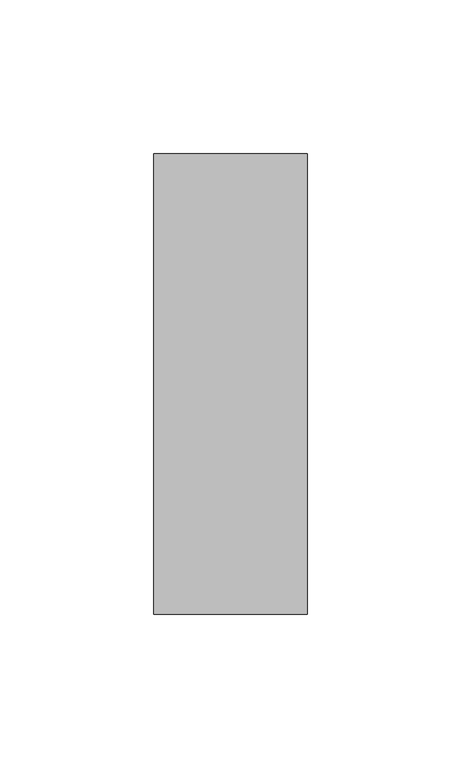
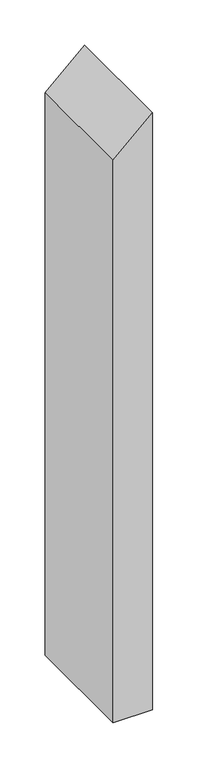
"""IFC4 building model written with IfcOpenShell, lengths in millimetres: member geometry, Прямоугольный импост : 50 x 150 мм."""

from ifc_helpers import new_model, si_unit, frame, origin, place, context, project, spatial, polyline, outline, extrude, source, transform, mapped, element, save


def member_4e902fbe(model_context):
    return source(origin(), model_context, "Body", "SweptSolid", [
        extrude(outline(polyline([(-44.9479941, 25.0), (-90.9866096, -25.0), (-847.6935986, -25.0), (-847.6935986, 25.0), (-44.9479941, 25.0)])), frame((0.0, -75.0, 0.0), z_axis=(0.0, 1.0, 0.0), x_axis=(0.0, 0.0, 1.0)), (0.0, 0.0, 1.0), 150.0),
    ])


if __name__ == "__main__":
    model = new_model("IFC4")
    model_context = context("Model", 3, world=origin())
    ifc_project = project(units=[si_unit("LENGTHUNIT", "METRE", prefix="MILLI")], contexts=[model_context])
    site = spatial("IfcSite", under=ifc_project)
    building = spatial("IfcBuilding", under=site)
    placement = place(None, origin())
    member_shape = member_4e902fbe(model_context)
    element("IfcMember", 1, ObjectType="Прямоугольный импост : 50 x 150 мм", at=placement, inside=building, context=model_context, shape_type="MappedRepresentation", body=[
        mapped(member_shape, transform((0.0, 0.0, 0.0), x_axis=(1.0, 0.0, 0.0), y_axis=(0.0, 1.0, 0.0), z_axis=(0.0, 0.0, 1.0))),
    ])
    save(model, "model.ifc")
